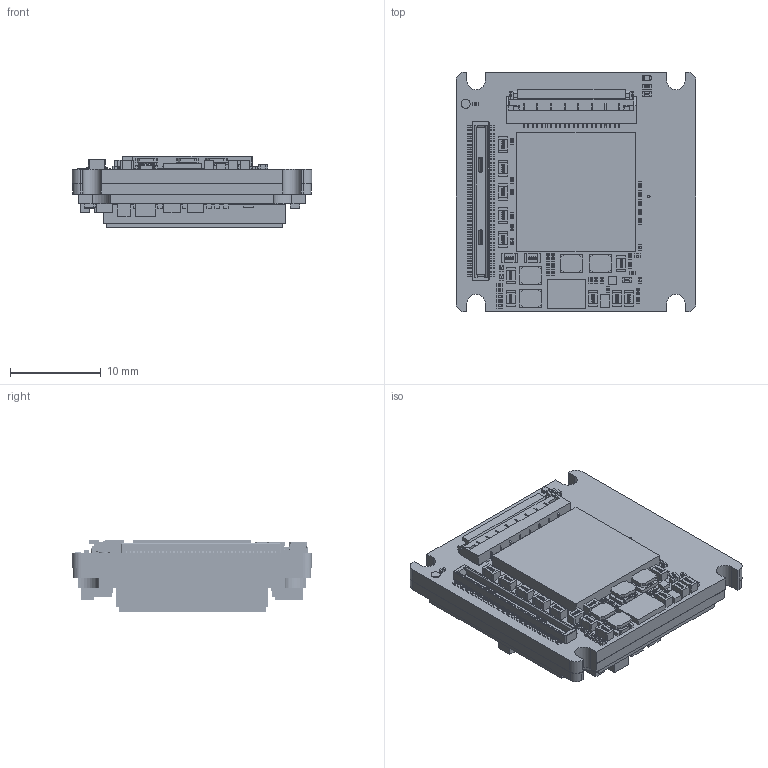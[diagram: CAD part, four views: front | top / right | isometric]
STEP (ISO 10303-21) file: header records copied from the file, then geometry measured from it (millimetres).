
FILE_DESCRIPTION (( 'STEP AP214' ), '1' );
FILE_NAME ('Alvium-CSI2-Bare-Board-IMX183.STEP', '2022-12-21T12:15:04', ( '' ), ( '' ), 'SwSTEP 2.0', 'SolidWorks 2021', '' );
FILE_SCHEMA (( 'AUTOMOTIVE_DESIGN' ));
Length unit declared in the file: millimetre
Products named in the file (1): Alvium-CSI2-Bare-Board-IMX183
Bounding box: 26.4 x 26.4 x 7.9 mm (x, y, z)
Surface area: 4858.5 mm2 (no closed solid volume)
Topology: 0 solids, 321 shells, 6975 faces, 21796 edges, 15700 vertices
Faces by surface type: plane 3890, bspline 2251, cylinder 802, torus 28, cone 4
Entity records: 488958 total; most frequent: CARTESIAN_POINT 239530, ORIENTED_EDGE 38477, DIRECTION 25267, EDGE_CURVE 21796, VERTEX_POINT 15705, LINE 12537, VECTOR 12537, EDGE_LOOP 7831
